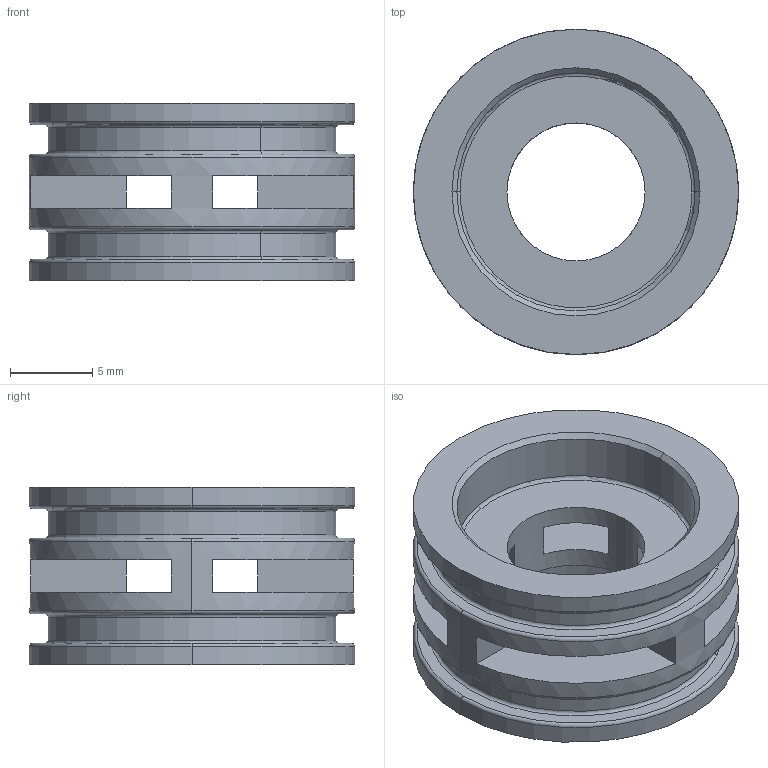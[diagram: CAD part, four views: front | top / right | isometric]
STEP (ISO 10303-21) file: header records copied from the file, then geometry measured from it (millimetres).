
FILE_DESCRIPTION(('CATIA V5 STEP Exchange'),'2;1');
FILE_NAME('C:\Users\Administrator\Desktop\H6（3.0平台）\VDC阀\2.过程数据\膜片式\阻尼密封支撑圈.stp','2021-02-25T02:08:27+00:00',('none'),('none'),'CATIA Version 5 Release 20 GA (IN-10)','CATIA V5 STEP AP214','none');
FILE_SCHEMA(('AUTOMOTIVE_DESIGN { 1 0 10303 214 1 1 1 1 }'));
Length unit declared in the file: millimetre
Products named in the file (1): BPC0010081
Bounding box: 19.8 x 19.8 x 10.8 mm (x, y, z)
Volume: 1377.3 mm3; surface area: 2112.4 mm2
Topology: 1 solids, 1 shells, 64 faces, 144 edges, 88 vertices
Faces by surface type: plane 24, torus 20, cylinder 16, cone 4
Entity records: 1758 total; most frequent: CARTESIAN_POINT 355, ORIENTED_EDGE 288, DIRECTION 243, EDGE_CURVE 144, AXIS2_PLACEMENT_3D 140, VERTEX_POINT 88, CIRCLE 87, EDGE_LOOP 80
